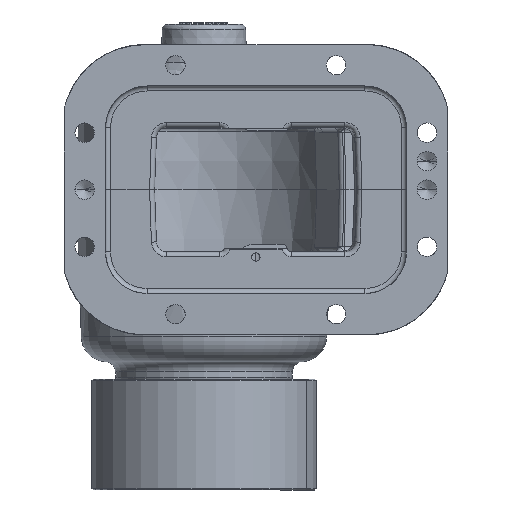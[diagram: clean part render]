
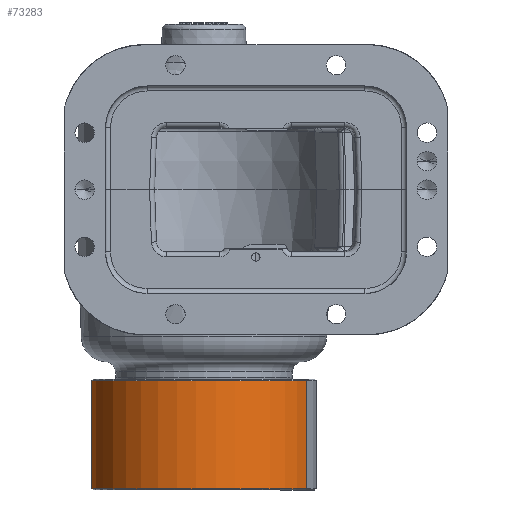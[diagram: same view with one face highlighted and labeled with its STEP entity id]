
A CAD part, front view. The second image highlights one B-rep face of the part: STEP entity #73283.
In plain terms, the highlighted cylindrical face has radius 68.821 mm (diameter 137.643 mm), a partial arc.
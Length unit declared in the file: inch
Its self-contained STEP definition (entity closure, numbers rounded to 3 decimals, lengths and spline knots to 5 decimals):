
#1422 = CARTESIAN_POINT ( 'NONE',  ( -2.7095, 0., 2.67 ) ) ;
#5195 = CIRCLE ( 'NONE', #57845, 2.7095 ) ;
#8173 = ORIENTED_EDGE ( 'NONE', *, *, #48505, .T. ) ;
#12728 = LINE ( 'NONE', #42314, #50331 ) ;
#13476 = ORIENTED_EDGE ( 'NONE', *, *, #31409, .T. ) ;
#16883 = EDGE_CURVE ( 'NONE', #64796, #58188, #12728, .T. ) ;
#17233 = VERTEX_POINT ( 'NONE', #18808 ) ;
#18469 = FACE_OUTER_BOUND ( 'NONE', #21296, .T. ) ;
#18808 = CARTESIAN_POINT ( 'NONE',  ( -2.7095, 0., 2.639 ) ) ;
#21289 = CARTESIAN_POINT ( 'NONE',  ( -2.7095, 0., 0.031 ) ) ;
#21296 = EDGE_LOOP ( 'NONE', ( #37014, #13476, #8173, #82676 ) ) ;
#27863 = DIRECTION ( 'NONE',  ( 0., 0., -1. ) ) ;
#29295 = CARTESIAN_POINT ( 'NONE',  ( 0., 0., 2.639 ) ) ;
#31409 = EDGE_CURVE ( 'NONE', #64796, #17233, #5195, .T. ) ;
#33768 = CIRCLE ( 'NONE', #63312, 2.7095 ) ;
#37014 = ORIENTED_EDGE ( 'NONE', *, *, #16883, .F. ) ;
#42314 = CARTESIAN_POINT ( 'NONE',  ( 2.7095, 0., 2.67 ) ) ;
#43761 = DIRECTION ( 'NONE',  ( 0., 0., -1. ) ) ;
#47137 = DIRECTION ( 'NONE',  ( 0., 0., -1. ) ) ;
#48505 = EDGE_CURVE ( 'NONE', #17233, #70718, #67906, .T. ) ;
#49110 = DIRECTION ( 'NONE',  ( 0., 0., 1. ) ) ;
#50066 = CARTESIAN_POINT ( 'NONE',  ( 0., 0., 0.031 ) ) ;
#50331 = VECTOR ( 'NONE', #43761, 39.37008 ) ;
#50587 = AXIS2_PLACEMENT_3D ( 'NONE', #53948, #47137, #54417 ) ;
#51213 = CARTESIAN_POINT ( 'NONE',  ( 2.7095, 0., 2.639 ) ) ;
#51634 = CARTESIAN_POINT ( 'NONE',  ( 2.7095, 0., 0.031 ) ) ;
#53948 = CARTESIAN_POINT ( 'NONE',  ( 0., 0., 2.67 ) ) ;
#54417 = DIRECTION ( 'NONE',  ( -1., 0., 0. ) ) ;
#56676 = EDGE_CURVE ( 'NONE', #70718, #58188, #33768, .T. ) ;
#57845 = AXIS2_PLACEMENT_3D ( 'NONE', #29295, #27863, #58941 ) ;
#58188 = VERTEX_POINT ( 'NONE', #51634 ) ;
#58941 = DIRECTION ( 'NONE',  ( 1., 0., 0. ) ) ;
#63312 = AXIS2_PLACEMENT_3D ( 'NONE', #50066, #49110, #92822 ) ;
#64796 = VERTEX_POINT ( 'NONE', #51213 ) ;
#67906 = LINE ( 'NONE', #1422, #73715 ) ;
#70718 = VERTEX_POINT ( 'NONE', #21289 ) ;
#73283 = ADVANCED_FACE ( 'NONE', ( #18469 ), #76729, .T. ) ;
#73715 = VECTOR ( 'NONE', #90260, 39.37008 ) ;
#76729 = CYLINDRICAL_SURFACE ( 'NONE', #50587, 2.7095 ) ;
#82676 = ORIENTED_EDGE ( 'NONE', *, *, #56676, .T. ) ;
#90260 = DIRECTION ( 'NONE',  ( 0., 0., -1. ) ) ;
#92822 = DIRECTION ( 'NONE',  ( 1., 0., 0. ) ) ;
